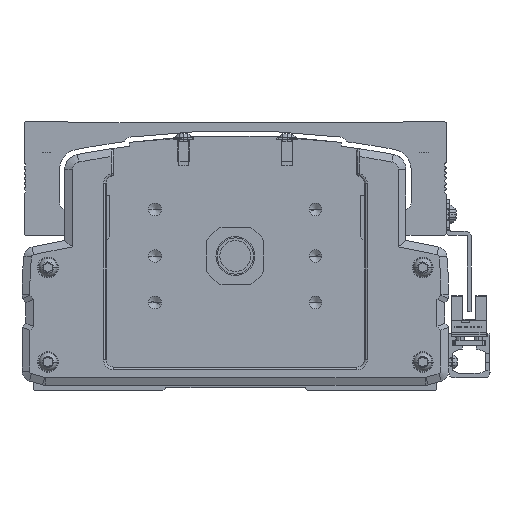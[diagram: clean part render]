
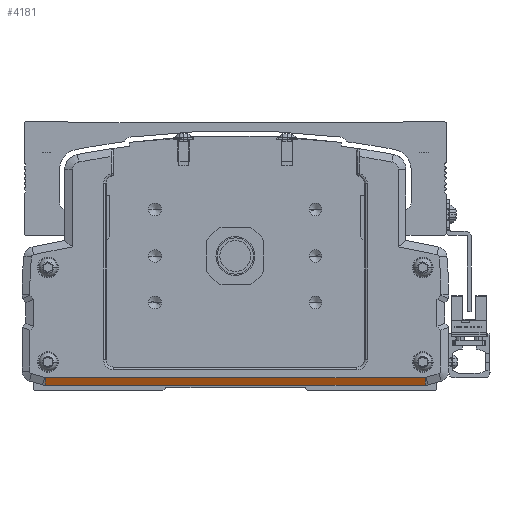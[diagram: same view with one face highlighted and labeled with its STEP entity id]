
A CAD part, front view. The second image highlights one B-rep face of the part: STEP entity #4181.
In plain terms, the highlighted planar face has unit normal (0, -0.894, -0.447).
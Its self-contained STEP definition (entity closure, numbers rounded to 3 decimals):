
#4181=ADVANCED_FACE('',(#10207),#10208,.F.);
#10207=FACE_OUTER_BOUND('',#19622,.T.);
#10208=PLANE('',#19623);
#19622=EDGE_LOOP('',(#32658,#32659,#32660,#32661));
#19623=AXIS2_PLACEMENT_3D('',#32662,#32663,#32664);
#32658=ORIENTED_EDGE('',*,*,#54649,.T.);
#32659=ORIENTED_EDGE('',*,*,#54650,.F.);
#32660=ORIENTED_EDGE('',*,*,#53270,.F.);
#32661=ORIENTED_EDGE('',*,*,#54651,.F.);
#32662=CARTESIAN_POINT('',(-599.999,-436.278,-50.001));
#32663=DIRECTION('',(0.,0.894,0.447));
#32664=DIRECTION('',(0.,0.447,-0.894));
#53270=EDGE_CURVE('',#64345,#64346,#64347,.T.);
#54649=EDGE_CURVE('',#66650,#66651,#66652,.T.);
#54650=EDGE_CURVE('',#64346,#66651,#66653,.T.);
#54651=EDGE_CURVE('',#66650,#64345,#66654,.T.);
#64345=VERTEX_POINT('',#80427);
#64346=VERTEX_POINT('',#80428);
#64347=LINE('',#80429,#80430);
#66650=VERTEX_POINT('',#83717);
#66651=VERTEX_POINT('',#83718);
#66652=LINE('',#83719,#83720);
#66653=LINE('',#83721,#83722);
#66654=LINE('',#83723,#83724);
#80427=CARTESIAN_POINT('',(-526.575,-437.778,-47.001));
#80428=CARTESIAN_POINT('',(-526.575,-436.278,-50.001));
#80429=CARTESIAN_POINT('',(-526.575,-437.778,-47.001));
#80430=VECTOR('',#98381,1000.0);
#83717=CARTESIAN_POINT('',(-673.423,-437.778,-47.001));
#83718=CARTESIAN_POINT('',(-673.423,-436.278,-50.001));
#83719=CARTESIAN_POINT('',(-673.423,-437.778,-47.001));
#83720=VECTOR('',#100113,1000.0);
#83721=CARTESIAN_POINT('',(-599.999,-436.278,-50.001));
#83722=VECTOR('',#100114,1000.0);
#83723=CARTESIAN_POINT('',(-600.015,-437.778,-47.001));
#83724=VECTOR('',#100115,1000.0);
#98381=DIRECTION('',(0.,0.447,-0.894));
#100113=DIRECTION('',(0.,0.447,-0.894));
#100114=DIRECTION('',(-1.0,0.,0.));
#100115=DIRECTION('',(1.0,0.,0.));
